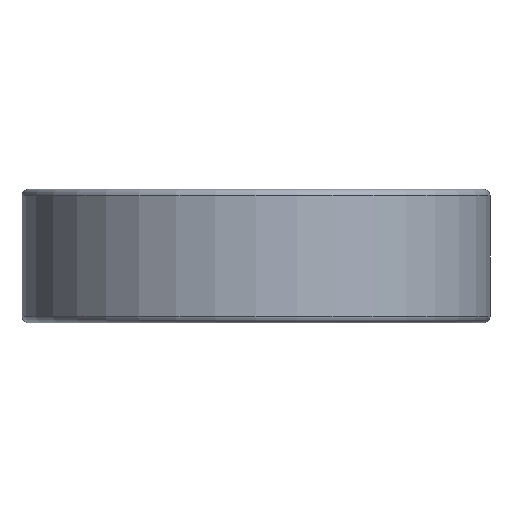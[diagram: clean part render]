
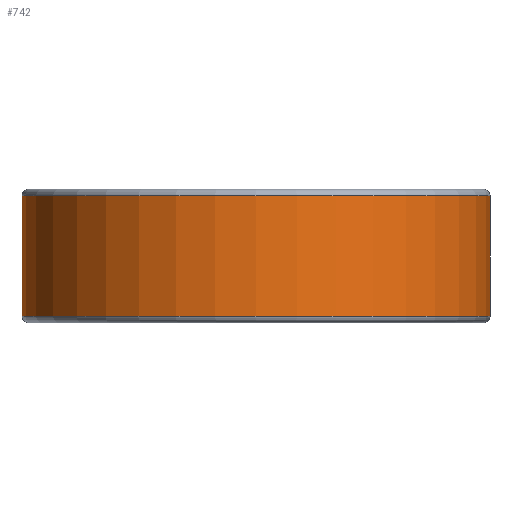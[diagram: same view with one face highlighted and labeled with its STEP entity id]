
A CAD part, front view. The second image highlights one B-rep face of the part: STEP entity #742.
In plain terms, the highlighted cylindrical face has radius 21 mm (diameter 42 mm), a full revolution.
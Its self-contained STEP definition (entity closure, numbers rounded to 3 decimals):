
#101=LINE('',#1121,#107);
#107=VECTOR('',#935,21.);
#113=CYLINDRICAL_SURFACE('',#814,21.);
#124=FACE_OUTER_BOUND('',#161,.T.);
#161=EDGE_LOOP('',(#501,#502,#503,#504,#505,#506));
#216=CIRCLE('',#810,21.);
#217=CIRCLE('',#811,21.);
#220=CIRCLE('',#815,21.);
#221=CIRCLE('',#816,21.);
#273=VERTEX_POINT('',#1110);
#274=VERTEX_POINT('',#1111);
#276=VERTEX_POINT('',#1118);
#277=VERTEX_POINT('',#1119);
#366=EDGE_CURVE('',#273,#274,#216,.T.);
#367=EDGE_CURVE('',#274,#273,#217,.T.);
#370=EDGE_CURVE('',#276,#277,#220,.T.);
#371=EDGE_CURVE('',#276,#274,#101,.T.);
#372=EDGE_CURVE('',#277,#276,#221,.T.);
#501=ORIENTED_EDGE('',*,*,#370,.F.);
#502=ORIENTED_EDGE('',*,*,#371,.T.);
#503=ORIENTED_EDGE('',*,*,#366,.F.);
#504=ORIENTED_EDGE('',*,*,#367,.F.);
#505=ORIENTED_EDGE('',*,*,#371,.F.);
#506=ORIENTED_EDGE('',*,*,#372,.F.);
#742=ADVANCED_FACE('',(#124),#113,.T.);
#810=AXIS2_PLACEMENT_3D('',#1112,#923,#924);
#811=AXIS2_PLACEMENT_3D('',#1113,#925,#926);
#814=AXIS2_PLACEMENT_3D('',#1117,#931,#932);
#815=AXIS2_PLACEMENT_3D('',#1120,#933,#934);
#816=AXIS2_PLACEMENT_3D('',#1122,#936,#937);
#923=DIRECTION('center_axis',(0.,0.,-1.));
#924=DIRECTION('ref_axis',(0.,-1.,0.));
#925=DIRECTION('center_axis',(0.,0.,-1.));
#926=DIRECTION('ref_axis',(0.,-1.,0.));
#931=DIRECTION('center_axis',(0.,0.,1.));
#932=DIRECTION('ref_axis',(0.,1.,0.));
#933=DIRECTION('center_axis',(0.,0.,1.));
#934=DIRECTION('ref_axis',(0.,-1.,0.));
#935=DIRECTION('',(0.,0.,-1.));
#936=DIRECTION('center_axis',(0.,0.,1.));
#937=DIRECTION('ref_axis',(0.,-1.,0.));
#1110=CARTESIAN_POINT('',(-21.,0.,0.6));
#1111=CARTESIAN_POINT('',(0.,-21.,0.6));
#1112=CARTESIAN_POINT('Origin',(0.,0.,0.6));
#1113=CARTESIAN_POINT('Origin',(0.,0.,0.6));
#1117=CARTESIAN_POINT('Origin',(0.,0.,6.));
#1118=CARTESIAN_POINT('',(0.,-21.,11.4));
#1119=CARTESIAN_POINT('',(-21.,0.,11.4));
#1120=CARTESIAN_POINT('Origin',(0.,0.,11.4));
#1121=CARTESIAN_POINT('',(0.,-21.,6.));
#1122=CARTESIAN_POINT('Origin',(0.,0.,11.4));
